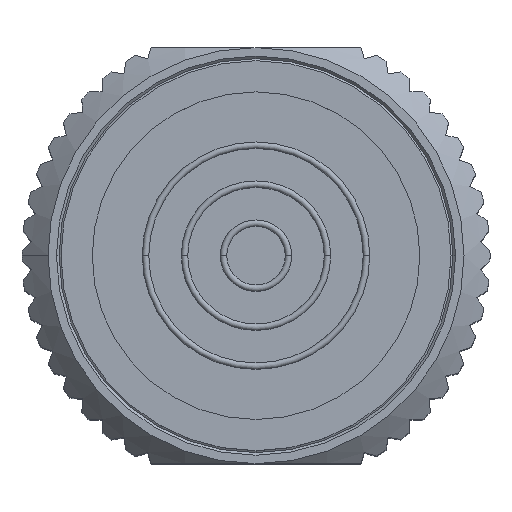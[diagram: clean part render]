
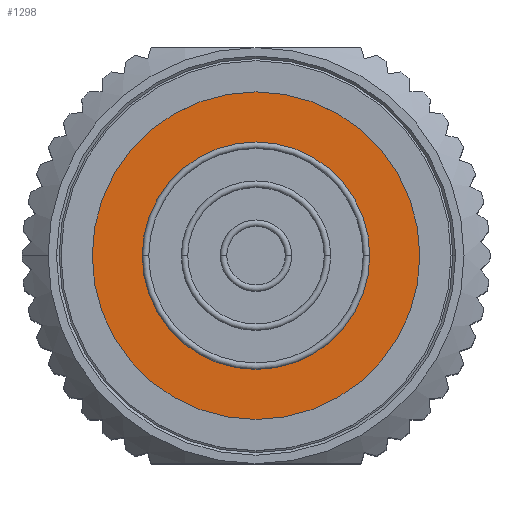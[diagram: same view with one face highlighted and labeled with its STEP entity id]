
A CAD part, top view. The second image highlights one B-rep face of the part: STEP entity #1298.
In plain terms, the highlighted planar face has unit normal (0, 0, 1) as drawn and (0, 1, 0) by its records, which use the part's own axes.
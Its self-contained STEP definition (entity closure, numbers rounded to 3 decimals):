
#105 = DIRECTION ( 'NONE',  ( 0., 1., 0. ) ) ;
#202 = EDGE_CURVE ( 'NONE', #6579, #7508, #8329, .T. ) ;
#245 = FACE_OUTER_BOUND ( 'NONE', #4502, .T. ) ;
#370 = CARTESIAN_POINT ( 'NONE',  ( -6.3, 3.75, 0. ) ) ;
#1069 = AXIS2_PLACEMENT_3D ( 'NONE', #4335, #105, #8711 ) ;
#1113 = CIRCLE ( 'NONE', #9023, 4.375 ) ;
#1125 = DIRECTION ( 'NONE',  ( 0., 1., 0. ) ) ;
#1182 = CIRCLE ( 'NONE', #1069, 6.3 ) ;
#1205 = EDGE_CURVE ( 'NONE', #7508, #6579, #1182, .T. ) ;
#1298 = ADVANCED_FACE ( 'NONE', ( #2505, #245 ), #7912, .F. ) ;
#1473 = VERTEX_POINT ( 'NONE', #10980 ) ;
#1559 = DIRECTION ( 'NONE',  ( 0., 1., 0. ) ) ;
#2505 = FACE_BOUND ( 'NONE', #10168, .T. ) ;
#2525 = ORIENTED_EDGE ( 'NONE', *, *, #202, .T. ) ;
#2831 = CARTESIAN_POINT ( 'NONE',  ( 0., 3.75, 0. ) ) ;
#3137 = CARTESIAN_POINT ( 'NONE',  ( 0., 3.75, 0. ) ) ;
#3577 = CIRCLE ( 'NONE', #5062, 4.375 ) ;
#4335 = CARTESIAN_POINT ( 'NONE',  ( 0., 3.75, 0. ) ) ;
#4502 = EDGE_LOOP ( 'NONE', ( #5065, #2525 ) ) ;
#4849 = CARTESIAN_POINT ( 'NONE',  ( 6.3, 3.75, 0. ) ) ;
#4898 = DIRECTION ( 'NONE',  ( 0., 1., 0. ) ) ;
#5062 = AXIS2_PLACEMENT_3D ( 'NONE', #3137, #4898, #10849 ) ;
#5065 = ORIENTED_EDGE ( 'NONE', *, *, #1205, .T. ) ;
#5316 = DIRECTION ( 'NONE',  ( 0., -1., 0. ) ) ;
#6049 = ORIENTED_EDGE ( 'NONE', *, *, #9922, .F. ) ;
#6241 = CARTESIAN_POINT ( 'NONE',  ( 6.3, 3.75, 0. ) ) ;
#6579 = VERTEX_POINT ( 'NONE', #4849 ) ;
#6617 = VERTEX_POINT ( 'NONE', #10811 ) ;
#7459 = CARTESIAN_POINT ( 'NONE',  ( 0., 3.75, 0. ) ) ;
#7508 = VERTEX_POINT ( 'NONE', #370 ) ;
#7516 = ORIENTED_EDGE ( 'NONE', *, *, #7661, .F. ) ;
#7661 = EDGE_CURVE ( 'NONE', #1473, #6617, #3577, .T. ) ;
#7871 = DIRECTION ( 'NONE',  ( 1., 0., 0. ) ) ;
#7912 = PLANE ( 'NONE',  #9187 ) ;
#8329 = CIRCLE ( 'NONE', #9946, 6.3 ) ;
#8711 = DIRECTION ( 'NONE',  ( -1., 0., 0. ) ) ;
#8877 = DIRECTION ( 'NONE',  ( -1., 0., 0. ) ) ;
#9023 = AXIS2_PLACEMENT_3D ( 'NONE', #7459, #1559, #9137 ) ;
#9137 = DIRECTION ( 'NONE',  ( -1., 0., 0. ) ) ;
#9187 = AXIS2_PLACEMENT_3D ( 'NONE', #6241, #5316, #7871 ) ;
#9922 = EDGE_CURVE ( 'NONE', #6617, #1473, #1113, .T. ) ;
#9946 = AXIS2_PLACEMENT_3D ( 'NONE', #2831, #1125, #8877 ) ;
#10168 = EDGE_LOOP ( 'NONE', ( #6049, #7516 ) ) ;
#10811 = CARTESIAN_POINT ( 'NONE',  ( -4.375, 3.75, 0. ) ) ;
#10849 = DIRECTION ( 'NONE',  ( -1., 0., 0. ) ) ;
#10980 = CARTESIAN_POINT ( 'NONE',  ( 4.375, 3.75, 0. ) ) ;
